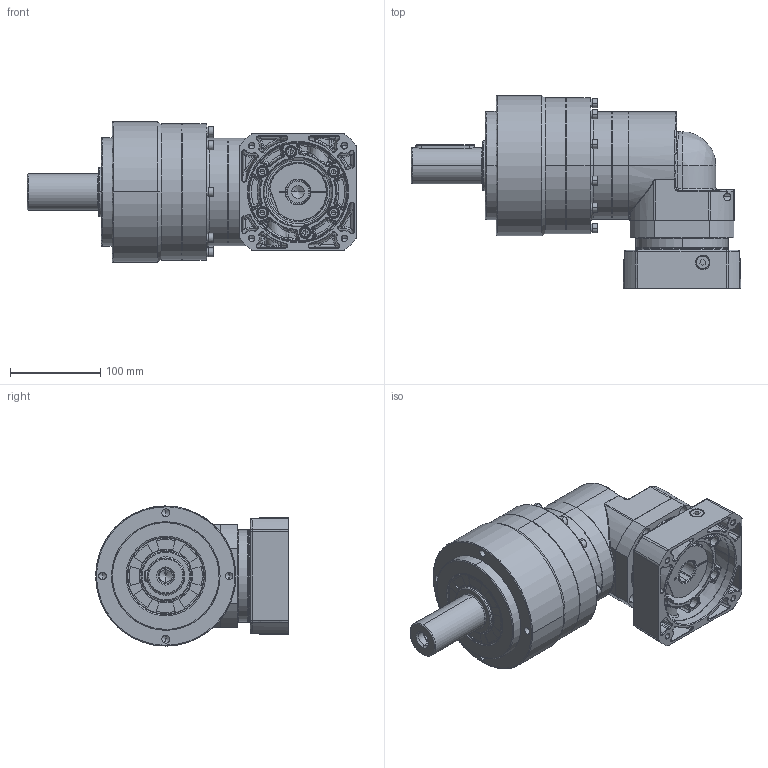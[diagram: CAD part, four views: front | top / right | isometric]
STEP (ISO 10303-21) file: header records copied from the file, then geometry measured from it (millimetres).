
FILE_DESCRIPTION (( 'STEP AP214' ), '1' );
FILE_NAME ('EVT155-L2-S2-P1 24-110-145-M8-64.STEP', '2025-02-14T08:36:35', ( '微软用户' ), ( '微软中国' ), 'SwSTEP 2.0', 'SolidWorks 2021', '' );
FILE_SCHEMA (( 'AUTOMOTIVE_DESIGN' ));
Length unit declared in the file: millimetre
Products named in the file (4): EVT155-L2-S2-P1 24-110-145-M8-64; 11-EVT110F_________stp_stp.stp.STEP; VRL155D-L2-S2-24-110-145-M8-64.STEP; EVT110D-L1-10-110-145-M8-64.STEP
Assembly tree (9 placements, depth 2):
  EVT155-L2-S2-P1 24-110-145-M8-64
    VRL155D-L2-S2-24-110-145-M8-64.STEP
    11-EVT110F_________stp_stp.stp.STEP
    EVT110D-L1-10-110-145-M8-64.STEP  x7
Bounding box: 364.5 x 213 x 155 mm (x, y, z)
Volume: 484422.6 mm3; surface area: 498321.1 mm2
Topology: 1 solids, 58 shells, 2074 faces, 5019 edges, 3064 vertices
Faces by surface type: bspline 656, plane 571, cylinder 525, cone 299, torus 23
Entity records: 146867 total; most frequent: CARTESIAN_POINT 107997, ORIENTED_EDGE 8830, DIRECTION 6621, EDGE_CURVE 4481, VERTEX_POINT 2794, AXIS2_PLACEMENT_3D 2651, EDGE_LOOP 2124, FACE_OUTER_BOUND 1900
